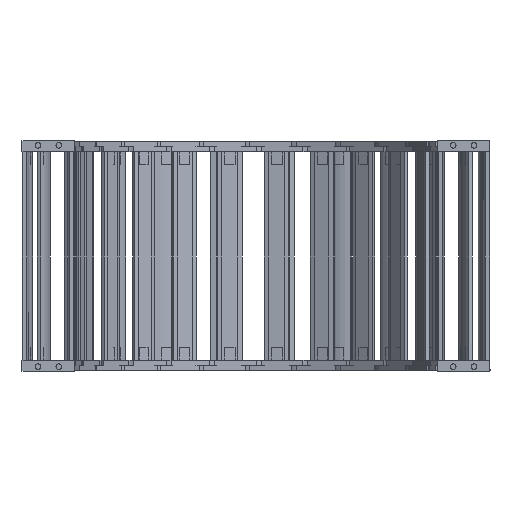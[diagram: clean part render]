
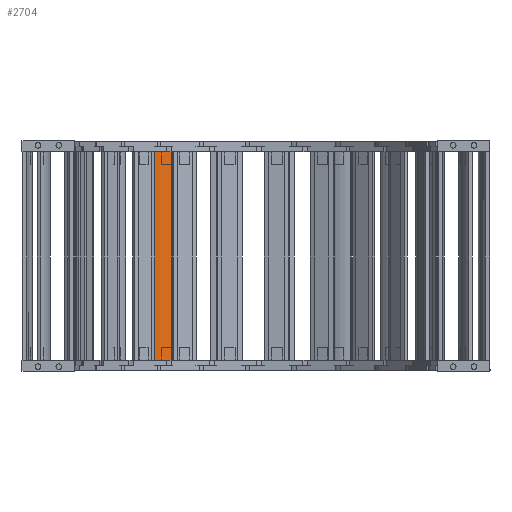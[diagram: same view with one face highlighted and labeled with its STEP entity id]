
A CAD part, left-side view. The second image highlights one B-rep face of the part: STEP entity #2704.
In plain terms, the highlighted cylindrical face has radius 52 mm (diameter 104 mm), a partial arc.
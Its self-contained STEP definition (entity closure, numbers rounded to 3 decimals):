
#2460=CARTESIAN_POINT('',(0.,45.5,37.5));
#2461=DIRECTION('',(0.,0.,-1.));
#2462=DIRECTION('',(0.346,-0.938,0.));
#2463=AXIS2_PLACEMENT_3D('',#2460,#2461,#2462);
#2503=DIRECTION('',(0.,0.,-1.));
#2504=VECTOR('',#2503,300.6);
#2505=CARTESIAN_POINT('',(18.,-3.285,37.5));
#2506=LINE('',#2505,#2504);
#2510=DIRECTION('',(0.,0.,1.));
#2511=VECTOR('',#2510,300.6);
#2512=CARTESIAN_POINT('',(-18.,-3.285,-263.1));
#2513=LINE('',#2512,#2511);
#2538=CARTESIAN_POINT('',(0.,45.5,-263.1));
#2539=DIRECTION('',(0.,0.,1.));
#2540=DIRECTION('',(-0.346,-0.938,0.));
#2541=AXIS2_PLACEMENT_3D('',#2538,#2539,#2540);
#2582=CARTESIAN_POINT('',(18.,-3.285,-263.1));
#2584=VERTEX_POINT('',#2582);
#2585=CARTESIAN_POINT('',(-18.,-3.285,-263.1));
#2586=VERTEX_POINT('',#2585);
#2593=CARTESIAN_POINT('',(18.,-3.285,37.5));
#2594=VERTEX_POINT('',#2593);
#2597=CARTESIAN_POINT('',(-18.,-3.285,37.5));
#2598=VERTEX_POINT('',#2597);
#2690=CARTESIAN_POINT('',(0.,45.5,-188.1));
#2691=DIRECTION('',(0.,0.,1.));
#2692=DIRECTION('',(1.,0.,0.));
#2693=AXIS2_PLACEMENT_3D('',#2690,#2691,#2692);
#2694=CYLINDRICAL_SURFACE('',#2693,52.);
#2696=ORIENTED_EDGE('',*,*,#2695,.T.);
#2698=ORIENTED_EDGE('',*,*,#2697,.F.);
#2700=ORIENTED_EDGE('',*,*,#2699,.T.);
#2701=ORIENTED_EDGE('',*,*,#2665,.F.);
#2702=EDGE_LOOP('',(#2696,#2698,#2700,#2701));
#2703=FACE_OUTER_BOUND('',#2702,.F.);
#2704=ADVANCED_FACE('',(#2703),#2694,.T.);
#2464=CIRCLE('',#2463,52.);
#2542=CIRCLE('',#2541,52.);
#2665=EDGE_CURVE('',#2594,#2598,#2464,.T.);
#2695=EDGE_CURVE('',#2594,#2584,#2506,.T.);
#2697=EDGE_CURVE('',#2586,#2584,#2542,.T.);
#2699=EDGE_CURVE('',#2586,#2598,#2513,.T.);
